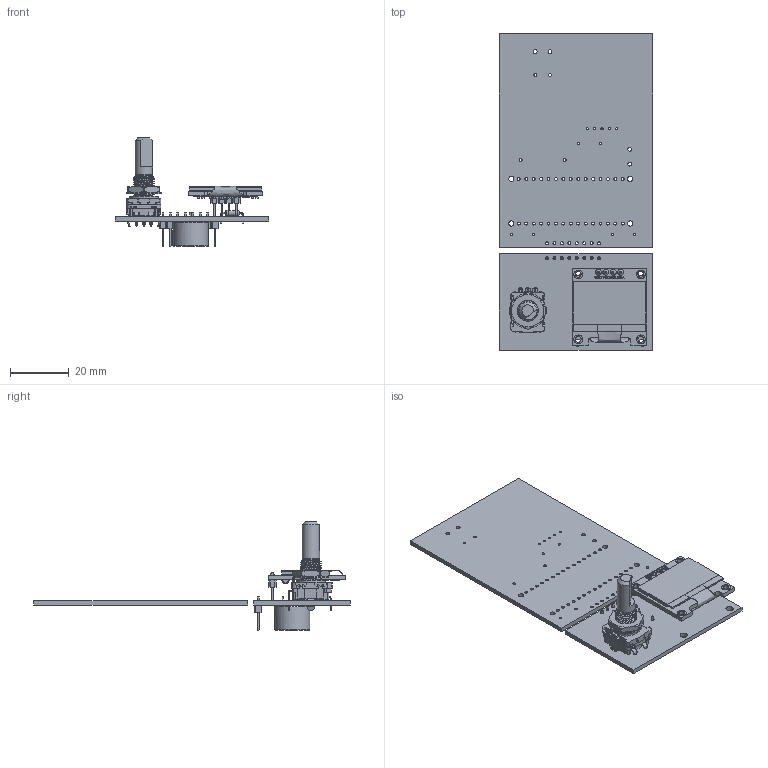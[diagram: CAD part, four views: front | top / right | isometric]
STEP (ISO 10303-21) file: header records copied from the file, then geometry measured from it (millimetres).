
FILE_DESCRIPTION(('KiCad electronic assembly'),'2;1');
FILE_NAME('ReflowPlate - Display.step','2026-10-07T16:23:08',('Pcbnew'), ('Kicad'),'Open CASCADE STEP processor 7.9','KiCad to STEP converter', 'Unknown');
FILE_SCHEMA(('AUTOMOTIVE_DESIGN { 1 0 10303 214 1 1 1 1 }'));
Length unit declared in the file: millimetre
Products named in the file (31): ReflowPlate - Display 1; R-Common-THT-P10.16mm; SEN-Rotary encoder-EC11E; EC11B-Base; COMPOUND; EC11B-Shaft-F; EC11B-HousingSW-vert; MOD-Display-OLED-SSD1306-0.96-128x64; board; screen; pin_header; soldering; smd_capacitor; smd_capacitor (1); 914_smd_resistor; 472_smd_resistor; t4_smd_diode; smd_capacitor (2); smd_capacitor (3); smd_capacitor (4); smd_capacitor (5); smd_capacitor (6); 472_smd_resistor (1); SOT-23_XC6206 v3; smd_capacitor (7); flat_cable; PinHeader_1x08_P2.54mm_Vertical; LS-Buzzer; ReflowPlate_PCB_1; ReflowPlate_PCB_2
Assembly tree (33 placements, depth 4):
  ReflowPlate - Display 1
    R-Common-THT-P10.16mm  x2
    SEN-Rotary encoder-EC11E
      EC11B-Base
        COMPOUND
        COMPOUND
      EC11B-Shaft-F
      EC11B-HousingSW-vert
    MOD-Display-OLED-SSD1306-0.96-128x64
      board
      screen
      pin_header
      soldering
      smd_capacitor
      smd_capacitor (1)
      914_smd_resistor
      472_smd_resistor  x3
      t4_smd_diode
      smd_capacitor (2)
      smd_capacitor (3)
      smd_capacitor (4)
      smd_capacitor (5)
      smd_capacitor (6)
      472_smd_resistor (1)
      SOT-23_XC6206 v3
      smd_capacitor (7)
      flat_cable
    PinHeader_1x08_P2.54mm_Vertical
    LS-Buzzer
    ReflowPlate_PCB_1
    ReflowPlate_PCB_2
Bounding box: 52.32 x 108.22 x 37.12 mm (x, y, z)
Volume: 12569.4 mm3; surface area: 20216.4 mm2
Topology: 88 solids, 88 shells, 2144 faces, 5423 edges, 3518 vertices
Faces by surface type: plane 1332, bspline 458, cylinder 288, sphere 26, torus 18, cone 16, revolution 6
Full cylindrical faces by diameter (mm): 0.5 x2, 0.762 x9, 0.8 x10, 1 x61, 1.2 x8, 1.3 x4, 1.78 x4, 2 x4, 2.3 x1, 2.5 x4, 3 x8, 5 x2, 6 x1, 7.2 x1, 10 x1, 12 x2
Entity records: 82692 total; most frequent: CARTESIAN_POINT 29513, ORIENTED_EDGE 10028, DIRECTION 8113, EDGE_CURVE 5014, LINE 3535, VECTOR 3535, VERTEX_POINT 3262, FACE_BOUND 2290
